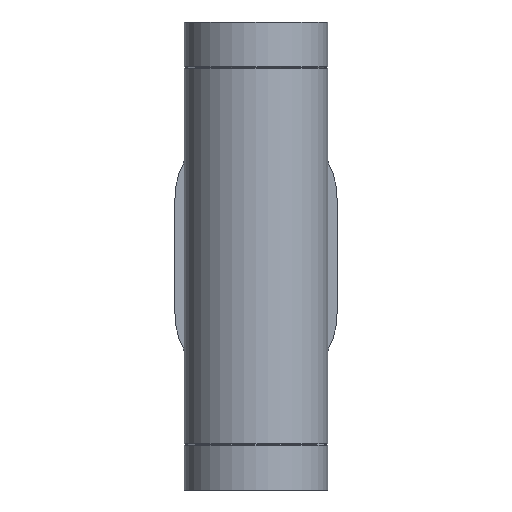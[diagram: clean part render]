
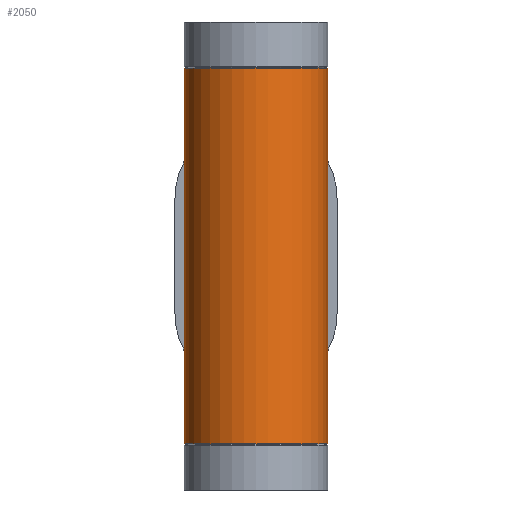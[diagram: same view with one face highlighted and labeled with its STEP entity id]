
A CAD part, front view. The second image highlights one B-rep face of the part: STEP entity #2050.
In plain terms, the highlighted cylindrical face has radius 62.715 mm (diameter 125.43 mm), a full revolution.
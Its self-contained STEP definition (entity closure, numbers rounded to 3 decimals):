
#39=FACE_BOUND($,#329,.T.);
#40=FACE_BOUND($,#330,.T.);
#77=B_SPLINE_CURVE_WITH_KNOTS($,3,(#3116,#3117,#3118,#3119,#3120,#3121,
#3122,#3123,#3124,#3125,#3126,#3127,#3128,#3129,#3130,#3131,#3132,#3133,
#3134,#3135,#3136,#3137,#3138,#3139,#3140,#3141,#3142,#3143,#3144,#3145,
#3146,#3147,#3148,#3149),.UNSPECIFIED.,.F.,.F.,(4,2,2,2,2,2,2,2,2,2,2,2,
2,2,2,2,4),(0.,1.253,2.506,3.759,5.012,
6.167,7.322,8.477,9.632,10.787,
11.942,13.097,14.252,15.506,16.759,
18.012,19.265),.UNSPECIFIED.);
#78=B_SPLINE_CURVE_WITH_KNOTS($,3,(#3158,#3159,#3160,#3161,#3162,#3163,
#3164,#3165,#3166,#3167,#3168,#3169,#3170,#3171,#3172,#3173,#3174,#3175,
#3176,#3177,#3178,#3179,#3180,#3181,#3182,#3183,#3184,#3185,#3186,#3187,
#3188,#3189,#3190,#3191),.UNSPECIFIED.,.F.,.F.,(4,2,2,2,2,2,2,2,2,2,2,2,
2,2,2,2,4),(0.,1.253,2.506,3.759,5.012,
6.167,7.322,8.477,9.632,10.787,
11.942,13.097,14.252,15.506,16.759,
18.012,19.265),.UNSPECIFIED.);
#96=CYLINDRICAL_SURFACE($,#2190,62.715);
#213=FACE_OUTER_BOUND($,#328,.T.);
#328=EDGE_LOOP($,(#1472));
#329=EDGE_LOOP($,(#1473));
#330=EDGE_LOOP($,(#1474,#1475,#1476,#1477));
#471=CIRCLE($,#2181,62.715);
#476=CIRCLE($,#2191,62.715);
#580=LINE($,#3155,#764);
#581=LINE($,#3157,#765);
#764=VECTOR($,#2459,100.);
#765=VECTOR($,#2460,100.);
#946=VERTEX_POINT($,#3095);
#953=VERTEX_POINT($,#3113);
#954=VERTEX_POINT($,#3115);
#955=VERTEX_POINT($,#3152);
#956=VERTEX_POINT($,#3154);
#957=VERTEX_POINT($,#3156);
#1150=EDGE_CURVE($,#946,#946,#471,.T.);
#1158=EDGE_CURVE($,#954,#953,#77,.T.);
#1160=EDGE_CURVE($,#955,#955,#476,.T.);
#1161=EDGE_CURVE($,#956,#954,#580,.T.);
#1162=EDGE_CURVE($,#953,#957,#581,.T.);
#1163=EDGE_CURVE($,#957,#956,#78,.T.);
#1472=ORIENTED_EDGE($,*,*,#1150,.T.);
#1473=ORIENTED_EDGE($,*,*,#1160,.T.);
#1474=ORIENTED_EDGE($,*,*,#1161,.T.);
#1475=ORIENTED_EDGE($,*,*,#1158,.T.);
#1476=ORIENTED_EDGE($,*,*,#1162,.T.);
#1477=ORIENTED_EDGE($,*,*,#1163,.T.);
#2050=ADVANCED_FACE($,(#213,#39,#40),#96,.T.);
#2181=AXIS2_PLACEMENT_3D($,#3096,#2433,#2434);
#2190=AXIS2_PLACEMENT_3D($,#3151,#2455,#2456);
#2191=AXIS2_PLACEMENT_3D($,#3153,#2457,#2458);
#2433=DIRECTION('center_axis',(0.,0.,1.));
#2434=DIRECTION('ref_axis',(-1.,0.,0.));
#2455=DIRECTION('center_axis',(0.,0.,1.));
#2456=DIRECTION('ref_axis',(-1.,0.,0.));
#2457=DIRECTION('center_axis',(0.,0.,-1.));
#2458=DIRECTION('ref_axis',(-1.,0.,0.));
#2459=DIRECTION($,(0.,0.,-1.));
#2460=DIRECTION($,(0.,0.,1.));
#3095=CARTESIAN_POINT('',(62.715,0.,-164.276));
#3096=CARTESIAN_POINT('Origin',(0.,0.,-164.276));
#3113=CARTESIAN_POINT('',(57.,26.157,-50.));
#3115=CARTESIAN_POINT('',(-57.,26.157,-50.));
#3116=CARTESIAN_POINT('Ctrl Pts',(-57.,26.157,-50.));
#3117=CARTESIAN_POINT('Ctrl Pts',(-57.,26.157,-54.177));
#3118=CARTESIAN_POINT('Ctrl Pts',(-56.556,27.157,-58.04));
#3119=CARTESIAN_POINT('Ctrl Pts',(-55.006,30.173,-65.412));
#3120=CARTESIAN_POINT('Ctrl Pts',(-53.893,32.18,-68.921));
#3121=CARTESIAN_POINT('Ctrl Pts',(-51.024,36.56,-75.672));
#3122=CARTESIAN_POINT('Ctrl Pts',(-49.267,38.931,-78.898));
#3123=CARTESIAN_POINT('Ctrl Pts',(-45.178,43.609,-84.946));
#3124=CARTESIAN_POINT('Ctrl Pts',(-42.845,45.918,-87.765));
#3125=CARTESIAN_POINT('Ctrl Pts',(-37.964,50.013,-92.647));
#3126=CARTESIAN_POINT('Ctrl Pts',(-35.283,51.965,-94.913));
#3127=CARTESIAN_POINT('Ctrl Pts',(-29.328,55.544,-99.01));
#3128=CARTESIAN_POINT('Ctrl Pts',(-26.052,57.17,-100.84));
#3129=CARTESIAN_POINT('Ctrl Pts',(-19.076,59.86,-103.847));
#3130=CARTESIAN_POINT('Ctrl Pts',(-15.366,60.927,-105.027));
#3131=CARTESIAN_POINT('Ctrl Pts',(-7.754,62.354,-106.604));
#3132=CARTESIAN_POINT('Ctrl Pts',(-3.85,62.715,-107.));
#3133=CARTESIAN_POINT('Ctrl Pts',(3.85,62.715,-107.));
#3134=CARTESIAN_POINT('Ctrl Pts',(7.754,62.354,-106.604));
#3135=CARTESIAN_POINT('Ctrl Pts',(15.366,60.927,-105.027));
#3136=CARTESIAN_POINT('Ctrl Pts',(19.076,59.86,-103.847));
#3137=CARTESIAN_POINT('Ctrl Pts',(26.052,57.17,-100.84));
#3138=CARTESIAN_POINT('Ctrl Pts',(29.328,55.544,-99.01));
#3139=CARTESIAN_POINT('Ctrl Pts',(35.283,51.965,-94.913));
#3140=CARTESIAN_POINT('Ctrl Pts',(37.964,50.013,-92.647));
#3141=CARTESIAN_POINT('Ctrl Pts',(42.845,45.918,-87.765));
#3142=CARTESIAN_POINT('Ctrl Pts',(45.178,43.609,-84.946));
#3143=CARTESIAN_POINT('Ctrl Pts',(49.267,38.931,-78.898));
#3144=CARTESIAN_POINT('Ctrl Pts',(51.024,36.56,-75.672));
#3145=CARTESIAN_POINT('Ctrl Pts',(53.893,32.18,-68.921));
#3146=CARTESIAN_POINT('Ctrl Pts',(55.006,30.173,-65.412));
#3147=CARTESIAN_POINT('Ctrl Pts',(56.556,27.157,-58.04));
#3148=CARTESIAN_POINT('Ctrl Pts',(57.,26.157,-54.177));
#3149=CARTESIAN_POINT('Ctrl Pts',(57.,26.157,-50.));
#3151=CARTESIAN_POINT('Origin',(0.,0.,0.));
#3152=CARTESIAN_POINT('',(62.715,0.,164.276));
#3153=CARTESIAN_POINT('Origin',(0.,0.,164.276));
#3154=CARTESIAN_POINT('',(-57.,26.157,50.));
#3155=CARTESIAN_POINT($,(-57.,26.157,0.));
#3156=CARTESIAN_POINT('',(57.,26.157,50.));
#3157=CARTESIAN_POINT($,(57.,26.157,0.));
#3158=CARTESIAN_POINT('Ctrl Pts',(57.,26.157,50.));
#3159=CARTESIAN_POINT('Ctrl Pts',(57.,26.157,54.177));
#3160=CARTESIAN_POINT('Ctrl Pts',(56.556,27.157,58.04));
#3161=CARTESIAN_POINT('Ctrl Pts',(55.006,30.173,65.412));
#3162=CARTESIAN_POINT('Ctrl Pts',(53.893,32.18,68.921));
#3163=CARTESIAN_POINT('Ctrl Pts',(51.024,36.56,75.672));
#3164=CARTESIAN_POINT('Ctrl Pts',(49.267,38.931,78.898));
#3165=CARTESIAN_POINT('Ctrl Pts',(45.178,43.609,84.946));
#3166=CARTESIAN_POINT('Ctrl Pts',(42.845,45.918,87.765));
#3167=CARTESIAN_POINT('Ctrl Pts',(37.964,50.013,92.647));
#3168=CARTESIAN_POINT('Ctrl Pts',(35.283,51.965,94.913));
#3169=CARTESIAN_POINT('Ctrl Pts',(29.328,55.544,99.01));
#3170=CARTESIAN_POINT('Ctrl Pts',(26.052,57.17,100.84));
#3171=CARTESIAN_POINT('Ctrl Pts',(19.076,59.86,103.847));
#3172=CARTESIAN_POINT('Ctrl Pts',(15.366,60.927,105.027));
#3173=CARTESIAN_POINT('Ctrl Pts',(7.754,62.354,106.604));
#3174=CARTESIAN_POINT('Ctrl Pts',(3.85,62.715,107.));
#3175=CARTESIAN_POINT('Ctrl Pts',(-3.85,62.715,107.));
#3176=CARTESIAN_POINT('Ctrl Pts',(-7.754,62.354,106.604));
#3177=CARTESIAN_POINT('Ctrl Pts',(-15.366,60.927,105.027));
#3178=CARTESIAN_POINT('Ctrl Pts',(-19.076,59.86,103.847));
#3179=CARTESIAN_POINT('Ctrl Pts',(-26.052,57.17,100.84));
#3180=CARTESIAN_POINT('Ctrl Pts',(-29.328,55.544,99.01));
#3181=CARTESIAN_POINT('Ctrl Pts',(-35.283,51.965,94.913));
#3182=CARTESIAN_POINT('Ctrl Pts',(-37.964,50.013,92.647));
#3183=CARTESIAN_POINT('Ctrl Pts',(-42.845,45.918,87.765));
#3184=CARTESIAN_POINT('Ctrl Pts',(-45.178,43.609,84.946));
#3185=CARTESIAN_POINT('Ctrl Pts',(-49.267,38.931,78.898));
#3186=CARTESIAN_POINT('Ctrl Pts',(-51.024,36.56,75.672));
#3187=CARTESIAN_POINT('Ctrl Pts',(-53.893,32.18,68.921));
#3188=CARTESIAN_POINT('Ctrl Pts',(-55.006,30.173,65.412));
#3189=CARTESIAN_POINT('Ctrl Pts',(-56.556,27.157,58.04));
#3190=CARTESIAN_POINT('Ctrl Pts',(-57.,26.157,54.177));
#3191=CARTESIAN_POINT('Ctrl Pts',(-57.,26.157,50.));
